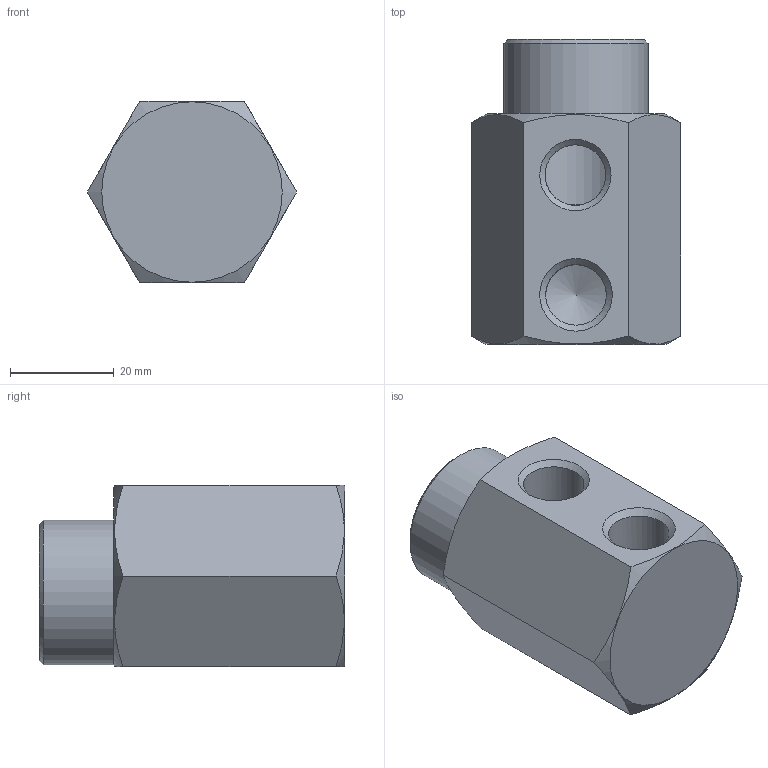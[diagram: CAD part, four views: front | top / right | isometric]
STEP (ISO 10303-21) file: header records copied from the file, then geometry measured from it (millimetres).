
FILE_DESCRIPTION(/* description */ (''),/* implementation_level */ '2;1');
FILE_NAME(/* name */ 'C:/Users/drich/Desktop/HF121H-4 v1.step',/* time_stamp */ '2020-01-14T20:22:39-06:00',/* author */ (''),/* organization */ (''),/* preprocessor_version */ 'ST-DEVELOPER v18',/* originating_system */ 'Autodesk Translation Framework v8.12.0.6',/* authorisation */ '');
FILE_SCHEMA (('AUTOMOTIVE_DESIGN { 1 0 10303 214 3 1 1 }'));
Length unit declared in the file: inch
Products named in the file (2): HF121H-4; HF381H-4
Assembly tree (1 placements, depth 2):
  HF121H-4
    HF381H-4
Bounding box: 40.33 x 58.72 x 34.92 mm (x, y, z)
Volume: 40657.8 mm3; surface area: 11840.2 mm2
Topology: 1 solids, 1 shells, 22 faces, 57 edges, 37 vertices
Faces by surface type: plane 9, cone 8, cylinder 5
Full cylindrical faces by diameter (mm): 11.468 x1, 11.668 x2, 18.901 x1, 27.762 x1
Entity records: 818 total; most frequent: CARTESIAN_POINT 248, ORIENTED_EDGE 112, DIRECTION 105, EDGE_CURVE 56, AXIS2_PLACEMENT_3D 43, VERTEX_POINT 37, EDGE_LOOP 27, FACE_OUTER_BOUND 22
